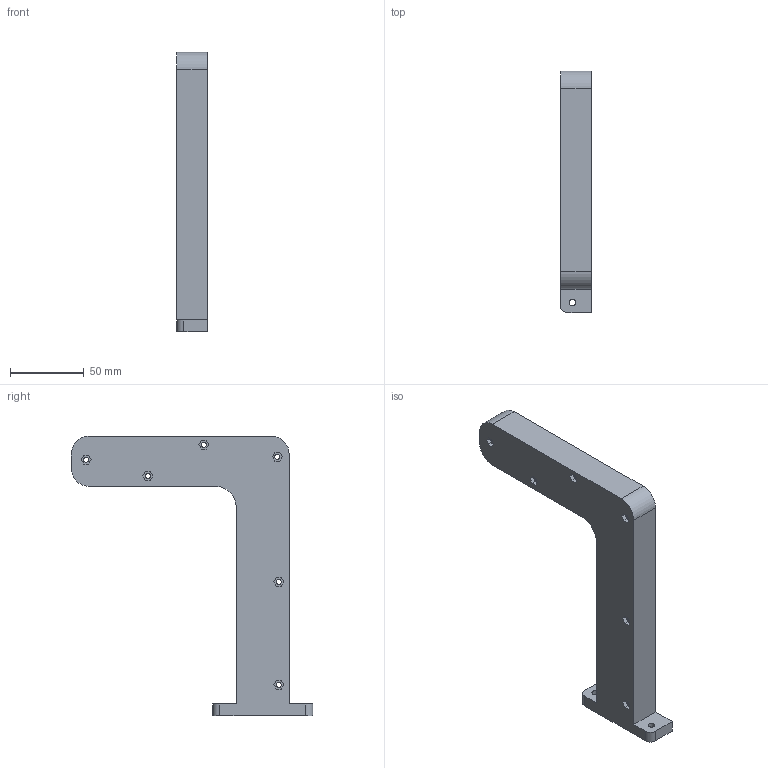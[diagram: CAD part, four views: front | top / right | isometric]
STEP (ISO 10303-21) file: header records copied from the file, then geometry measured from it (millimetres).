
FILE_DESCRIPTION(('FreeCAD Model'),'2;1');
FILE_NAME('Open CASCADE Shape Model','2026-10-31T13:49:48',('FreeCAD'),( 'FreeCAD'),'Open CASCADE STEP processor 7.8','FreeCAD','Unknown');
FILE_SCHEMA(('AUTOMOTIVE_DESIGN { 1 0 10303 214 1 1 1 1 }'));
Length unit declared in the file: millimetre
Products named in the file (1): Open CASCADE STEP translator 7.8 3
Bounding box: 21 x 164 x 190 mm (x, y, z)
Volume: 68208.2 mm3; surface area: 53177.3 mm2
Topology: 1 solids, 1 shells, 102 faces, 276 edges, 185 vertices
Faces by surface type: plane 73, cylinder 26, torus 2, extrusion 1
Full cylindrical faces by diameter (mm): 3.4 x6, 4.5 x2, 11 x2
Entity records: 3551 total; most frequent: CARTESIAN_POINT 883, ORIENTED_EDGE 552, DIRECTION 534, EDGE_CURVE 276, VECTOR 210, LINE 209, VERTEX_POINT 185, AXIS2_PLACEMENT_3D 162
